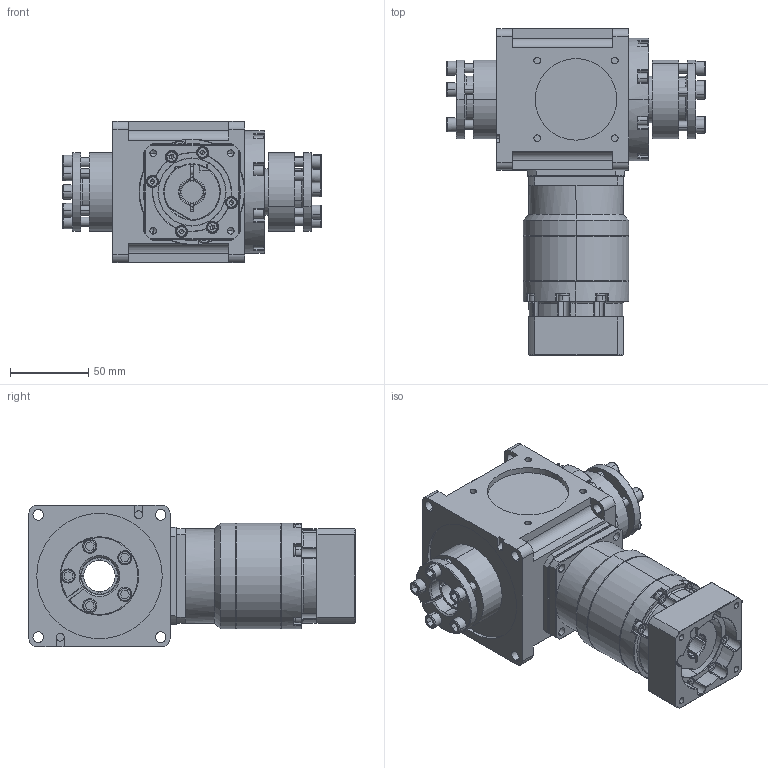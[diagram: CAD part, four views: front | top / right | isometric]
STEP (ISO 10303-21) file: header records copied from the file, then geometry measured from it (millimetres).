
FILE_DESCRIPTION (( 'STEP AP214' ), '1' );
FILE_NAME ('CCW090A-L2(24-200)-2HP 14-50-70-M5.STEP', '2025-06-03T02:56:36', ( '微软用户' ), ( '微软中国' ), 'SwSTEP 2.0', 'SolidWorks 2024', '' );
FILE_SCHEMA (( 'AUTOMOTIVE_DESIGN' ));
Length unit declared in the file: millimetre
Products named in the file (4): CCW090A-L2(24-200)-2HP 14-50-70-M5; CCW090A-002-2HP箱体; 涨紧套[24×50]_ZJ3-24×50; VRB-060-L2-S2-P1 14-50-70-M5
Assembly tree (4 placements, depth 2):
  CCW090A-L2(24-200)-2HP 14-50-70-M5
    CCW090A-002-2HP箱体
    涨紧套[24×50]_ZJ3-24×50  x2
    VRB-060-L2-S2-P1 14-50-70-M5
Bounding box: 165 x 208 x 90 mm (x, y, z)
Volume: 993828.8 mm3; surface area: 194281 mm2
Topology: 48 solids, 48 shells, 1802 faces, 4429 edges, 2783 vertices
Faces by surface type: plane 703, cylinder 670, cone 284, torus 93, bspline 32, sphere 20
Entity records: 50154 total; most frequent: CARTESIAN_POINT 9950, DIRECTION 8802, ORIENTED_EDGE 7992, EDGE_CURVE 3996, AXIS2_PLACEMENT_3D 3458, VERTEX_POINT 2541, LINE 1886, VECTOR 1886
